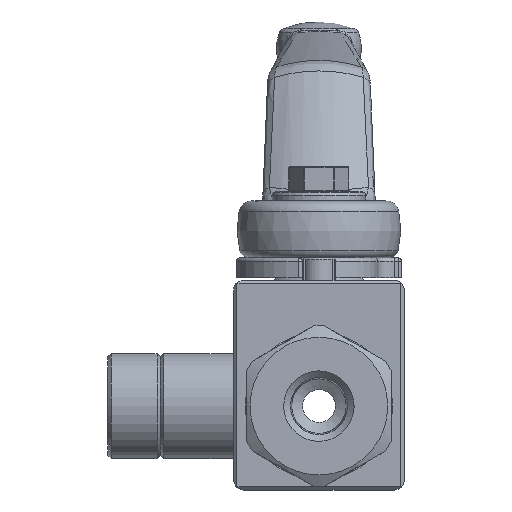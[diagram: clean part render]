
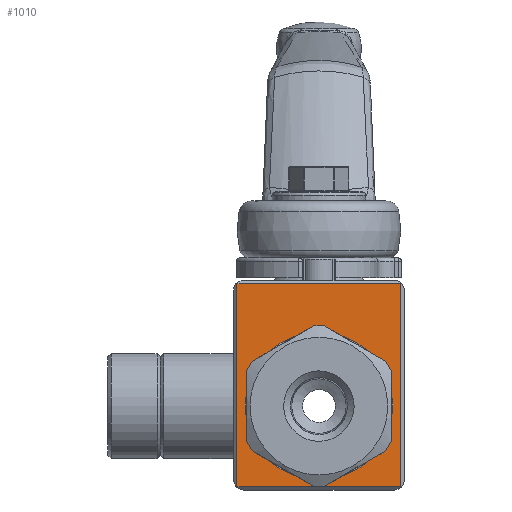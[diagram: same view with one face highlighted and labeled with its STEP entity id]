
A CAD part, front view. The second image highlights one B-rep face of the part: STEP entity #1010.
In plain terms, the highlighted planar face has unit normal (0, -1, 0).
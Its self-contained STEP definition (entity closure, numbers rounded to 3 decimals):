
#1010 = ADVANCED_FACE( '', ( #2151, #2152 ), #2153, .F. );
#2151 = FACE_BOUND( '', #4076, .T. );
#2152 = FACE_OUTER_BOUND( '', #4077, .T. );
#2153 = PLANE( '', #4078 );
#4076 = EDGE_LOOP( '', ( #7027 ) );
#4077 = EDGE_LOOP( '', ( #7028, #7029, #7030, #7031 ) );
#4078 = AXIS2_PLACEMENT_3D( '', #7032, #7033, #7034 );
#7027 = ORIENTED_EDGE( '', *, *, #9782, .T. );
#7028 = ORIENTED_EDGE( '', *, *, #9317, .T. );
#7029 = ORIENTED_EDGE( '', *, *, #9783, .T. );
#7030 = ORIENTED_EDGE( '', *, *, #8918, .T. );
#7031 = ORIENTED_EDGE( '', *, *, #9784, .T. );
#7032 = CARTESIAN_POINT( '', ( -13., -18.1, 19.2 ) );
#7033 = DIRECTION( '', ( 0., 1., 0. ) );
#7034 = DIRECTION( '', ( 0., 0., 1. ) );
#8918 = EDGE_CURVE( '', #10322, #10323, #10324, .T. );
#9317 = EDGE_CURVE( '', #11004, #11002, #11005, .T. );
#9782 = EDGE_CURVE( '', #11697, #11697, #11698, .T. );
#9783 = EDGE_CURVE( '', #11002, #10322, #11699, .T. );
#9784 = EDGE_CURVE( '', #10323, #11004, #11700, .T. );
#10322 = VERTEX_POINT( '', #12335 );
#10323 = VERTEX_POINT( '', #12336 );
#10324 = LINE( '', #12337, #12338 );
#11002 = VERTEX_POINT( '', #13643 );
#11004 = VERTEX_POINT( '', #13646 );
#11005 = LINE( '', #13647, #13648 );
#11697 = VERTEX_POINT( '', #15066 );
#11698 = CIRCLE( '', #15067, 11.25 );
#11699 = LINE( '', #15068, #15069 );
#11700 = LINE( '', #15070, #15071 );
#12335 = CARTESIAN_POINT( '', ( 12.5, -18.1, -12.3 ) );
#12336 = CARTESIAN_POINT( '', ( 12.5, -18.1, 18.7 ) );
#12337 = CARTESIAN_POINT( '', ( 12.5, -18.1, 19.2 ) );
#12338 = VECTOR( '', #16141, 1000. );
#13643 = CARTESIAN_POINT( '', ( -12.5, -18.1, -12.3 ) );
#13646 = CARTESIAN_POINT( '', ( -12.5, -18.1, 18.7 ) );
#13647 = CARTESIAN_POINT( '', ( -12.5, -18.1, 19.2 ) );
#13648 = VECTOR( '', #16698, 1000. );
#15066 = CARTESIAN_POINT( '', ( 0., -18.1, -11.25 ) );
#15067 = AXIS2_PLACEMENT_3D( '', #17273, #17274, #17275 );
#15068 = CARTESIAN_POINT( '', ( -13., -18.1, -12.3 ) );
#15069 = VECTOR( '', #17276, 1000. );
#15070 = CARTESIAN_POINT( '', ( -13., -18.1, 18.7 ) );
#15071 = VECTOR( '', #17277, 1000. );
#16141 = DIRECTION( '', ( 0., 0., 1. ) );
#16698 = DIRECTION( '', ( 0., 0., -1. ) );
#17273 = CARTESIAN_POINT( '', ( 0., -18.1, 0. ) );
#17274 = DIRECTION( '', ( 0., 1., 0. ) );
#17275 = DIRECTION( '', ( 0., 0., -1. ) );
#17276 = DIRECTION( '', ( 1., 0., 0. ) );
#17277 = DIRECTION( '', ( -1., 0., 0. ) );
